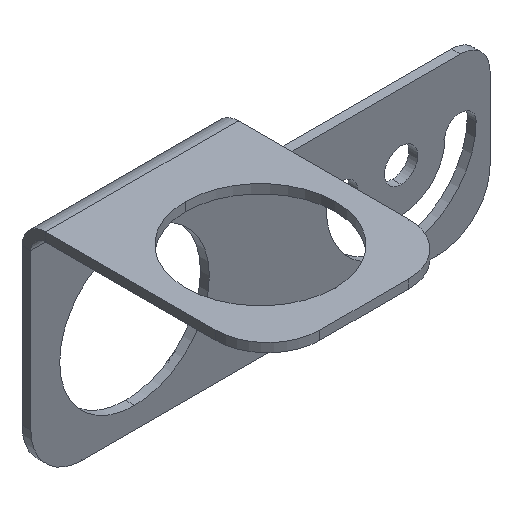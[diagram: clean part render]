
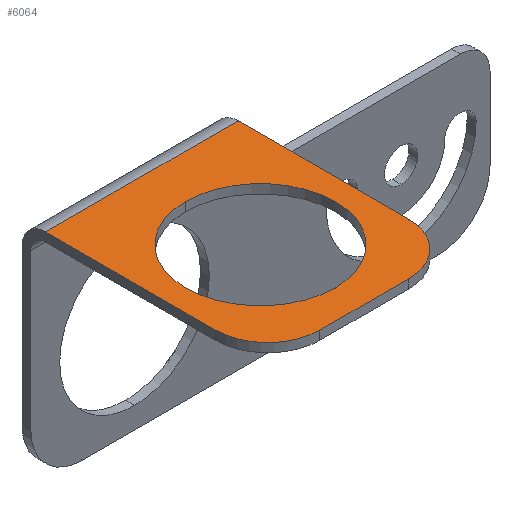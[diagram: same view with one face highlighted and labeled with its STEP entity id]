
A CAD part, isometric view. The second image highlights one B-rep face of the part: STEP entity #6064.
In plain terms, the highlighted planar face has unit normal (0, 0, 1).
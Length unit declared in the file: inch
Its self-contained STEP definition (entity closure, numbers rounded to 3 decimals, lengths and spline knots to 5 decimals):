
#182 = LINE ( 'NONE', #6831, #9842 ) ;
#229 = EDGE_LOOP ( 'NONE', ( #9605, #3457 ) ) ;
#291 = CIRCLE ( 'NONE', #1689, 0.63125 ) ;
#394 = AXIS2_PLACEMENT_3D ( 'NONE', #4822, #10362, #4759 ) ;
#570 = CARTESIAN_POINT ( 'NONE',  ( 0.8125, -1.1997, 0.1997 ) ) ;
#633 = DIRECTION ( 'NONE',  ( 0., 0., -1. ) ) ;
#993 = CARTESIAN_POINT ( 'NONE',  ( 0., -0.1997, 0.1997 ) ) ;
#1315 = EDGE_CURVE ( 'NONE', #9677, #5949, #5237, .T. ) ;
#1341 = CARTESIAN_POINT ( 'NONE',  ( 1.625, -0.1997, 0.1997 ) ) ;
#1467 = CARTESIAN_POINT ( 'NONE',  ( 0.8125, -1.83095, 0.1997 ) ) ;
#1689 = AXIS2_PLACEMENT_3D ( 'NONE', #570, #9999, #10773 ) ;
#2400 = DIRECTION ( 'NONE',  ( 0., 0., 1. ) ) ;
#2436 = VERTEX_POINT ( 'NONE', #10857 ) ;
#2444 = PLANE ( 'NONE',  #2710 ) ;
#2710 = AXIS2_PLACEMENT_3D ( 'NONE', #8204, #633, #11951 ) ;
#2784 = CARTESIAN_POINT ( 'NONE',  ( 0.8125, -0.56845, 0.1997 ) ) ;
#2992 = VERTEX_POINT ( 'NONE', #993 ) ;
#3172 = CARTESIAN_POINT ( 'NONE',  ( 0.4375, -1.6372, 0.1997 ) ) ;
#3195 = DIRECTION ( 'NONE',  ( 1., 0., 0. ) ) ;
#3245 = CARTESIAN_POINT ( 'NONE',  ( 0., 0., 0.1997 ) ) ;
#3327 = VERTEX_POINT ( 'NONE', #2784 ) ;
#3419 = LINE ( 'NONE', #1341, #11730 ) ;
#3457 = ORIENTED_EDGE ( 'NONE', *, *, #6387, .F. ) ;
#3898 = DIRECTION ( 'NONE',  ( 0., 1., 0. ) ) ;
#3935 = AXIS2_PLACEMENT_3D ( 'NONE', #4353, #2400, #7028 ) ;
#4003 = CIRCLE ( 'NONE', #394, 0.63125 ) ;
#4353 = CARTESIAN_POINT ( 'NONE',  ( 1.1875, -1.6372, 0.1997 ) ) ;
#4453 = LINE ( 'NONE', #8132, #5745 ) ;
#4469 = LINE ( 'NONE', #3245, #5906 ) ;
#4759 = DIRECTION ( 'NONE',  ( 0., 1., 0. ) ) ;
#4784 = EDGE_CURVE ( 'NONE', #2436, #8273, #9356, .T. ) ;
#4822 = CARTESIAN_POINT ( 'NONE',  ( 0.8125, -1.1997, 0.1997 ) ) ;
#5187 = DIRECTION ( 'NONE',  ( 0., 0., 1. ) ) ;
#5237 = CIRCLE ( 'NONE', #3935, 0.4375 ) ;
#5585 = ORIENTED_EDGE ( 'NONE', *, *, #9731, .T. ) ;
#5745 = VECTOR ( 'NONE', #7256, 39.37008 ) ;
#5906 = VECTOR ( 'NONE', #7754, 39.37008 ) ;
#5949 = VERTEX_POINT ( 'NONE', #6516 ) ;
#6064 = ADVANCED_FACE ( 'NONE', ( #10417, #8404 ), #2444, .F. ) ;
#6255 = ORIENTED_EDGE ( 'NONE', *, *, #9486, .T. ) ;
#6387 = EDGE_CURVE ( 'NONE', #10791, #3327, #4003, .T. ) ;
#6516 = CARTESIAN_POINT ( 'NONE',  ( 1.625, -1.6372, 0.1997 ) ) ;
#6831 = CARTESIAN_POINT ( 'NONE',  ( 1.625, 0., 0.1997 ) ) ;
#7028 = DIRECTION ( 'NONE',  ( 0., 1., 0. ) ) ;
#7256 = DIRECTION ( 'NONE',  ( 1., 0., 0. ) ) ;
#7754 = DIRECTION ( 'NONE',  ( 0., -1., 0. ) ) ;
#7765 = EDGE_CURVE ( 'NONE', #3327, #10791, #291, .T. ) ;
#7956 = VERTEX_POINT ( 'NONE', #8008 ) ;
#8008 = CARTESIAN_POINT ( 'NONE',  ( 1.625, -0.1997, 0.1997 ) ) ;
#8132 = CARTESIAN_POINT ( 'NONE',  ( 0., -2.0747, 0.1997 ) ) ;
#8204 = CARTESIAN_POINT ( 'NONE',  ( 0., 0., 0.1997 ) ) ;
#8273 = VERTEX_POINT ( 'NONE', #11982 ) ;
#8404 = FACE_OUTER_BOUND ( 'NONE', #9067, .T. ) ;
#8801 = ORIENTED_EDGE ( 'NONE', *, *, #4784, .T. ) ;
#8880 = DIRECTION ( 'NONE',  ( 0., 1., 0. ) ) ;
#8945 = EDGE_CURVE ( 'NONE', #2992, #2436, #4469, .T. ) ;
#8993 = CARTESIAN_POINT ( 'NONE',  ( 1.1875, -2.0747, 0.1997 ) ) ;
#9067 = EDGE_LOOP ( 'NONE', ( #11516, #8801, #5585, #9949, #6255, #10378 ) ) ;
#9356 = CIRCLE ( 'NONE', #11362, 0.4375 ) ;
#9486 = EDGE_CURVE ( 'NONE', #5949, #7956, #182, .T. ) ;
#9605 = ORIENTED_EDGE ( 'NONE', *, *, #7765, .F. ) ;
#9677 = VERTEX_POINT ( 'NONE', #8993 ) ;
#9731 = EDGE_CURVE ( 'NONE', #8273, #9677, #4453, .T. ) ;
#9842 = VECTOR ( 'NONE', #3898, 39.37008 ) ;
#9949 = ORIENTED_EDGE ( 'NONE', *, *, #1315, .T. ) ;
#9999 = DIRECTION ( 'NONE',  ( 0., 0., 1. ) ) ;
#10362 = DIRECTION ( 'NONE',  ( 0., 0., 1. ) ) ;
#10378 = ORIENTED_EDGE ( 'NONE', *, *, #11269, .F. ) ;
#10417 = FACE_BOUND ( 'NONE', #229, .T. ) ;
#10773 = DIRECTION ( 'NONE',  ( 0., 1., 0. ) ) ;
#10791 = VERTEX_POINT ( 'NONE', #1467 ) ;
#10857 = CARTESIAN_POINT ( 'NONE',  ( 0., -1.6372, 0.1997 ) ) ;
#11269 = EDGE_CURVE ( 'NONE', #2992, #7956, #3419, .T. ) ;
#11362 = AXIS2_PLACEMENT_3D ( 'NONE', #3172, #5187, #8880 ) ;
#11516 = ORIENTED_EDGE ( 'NONE', *, *, #8945, .T. ) ;
#11730 = VECTOR ( 'NONE', #3195, 39.37008 ) ;
#11951 = DIRECTION ( 'NONE',  ( 0., 1., 0. ) ) ;
#11982 = CARTESIAN_POINT ( 'NONE',  ( 0.4375, -2.0747, 0.1997 ) ) ;
